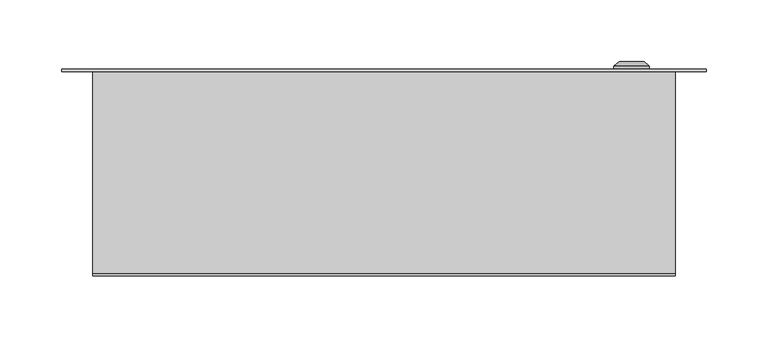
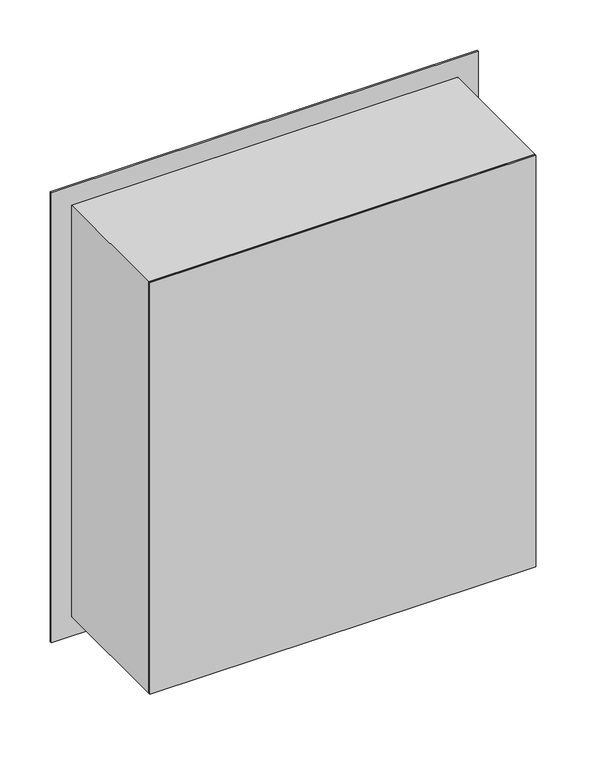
"""IFC4 building model written with IfcOpenShell, lengths in millimetres: proxy geometry, ЩУРВ-3_24 : ЩУРВ-3/24."""

from ifc_helpers import new_model, si_unit, point, frame, frame_2d, origin, place, context, project, spatial, polyline, circle_curve, trimmed, segment, composite_curve, outline, extrude, source, transform, mapped, element, save
from ifc_brep_helpers import plane_surface, cylinder_surface, revolved_surface, advanced_brep


def electrical_equipment_27e2d6df(model_context):
    return source(origin(), model_context, "Body", "SolidModel", [
        extrude(outline(composite_curve([segment(trimmed(circle_curve(frame_2d((448.0, 13.0)), 10.0), [point((458.0, 13.0))], [point((448.0, 3.0))], False, "CARTESIAN"), True, "CONTINUOUS"), segment(polyline([(448.0, 3.0), (393.0, 3.0)]), True, "CONTINUOUS"), segment(trimmed(circle_curve(frame_2d((393.0, 13.0)), 10.0), [point((393.0, 3.0))], [point((383.0, 13.0))], False, "CARTESIAN"), True, "CONTINUOUS"), segment(polyline([(383.0, 13.0), (383.0, 93.0)]), True, "CONTINUOUS"), segment(trimmed(circle_curve(frame_2d((393.0, 93.0)), 10.0), [point((383.0, 93.0))], [point((393.0, 103.0))], False, "CARTESIAN"), True, "CONTINUOUS"), segment(polyline([(393.0, 103.0), (448.0, 103.0)]), True, "CONTINUOUS"), segment(trimmed(circle_curve(frame_2d((448.0, 93.0)), 10.0), [point((448.0, 103.0))], [point((458.0, 93.0))], False, "CARTESIAN"), True, "CONTINUOUS"), segment(polyline([(458.0, 93.0), (458.0, 13.0)]), True, "CONTINUOUS")], self_intersect=False)), frame((0.0, -3.0, 0.0), z_axis=(0.0, 1.0, 0.0), x_axis=(0.0, 0.0, 1.0)), (0.0, 0.0, 1.0), 5.0),
        extrude(outline(polyline([(580.0, -260.0), (0.0, -260.0), (0.0, 260.0), (580.0, 260.0), (580.0, -260.0)]), holes=[polyline([(555.0, -235.0), (555.0, 235.0), (25.0, 235.0), (25.0, -235.0), (555.0, -235.0)])]), frame((0.0, 0.0, 0.0), z_axis=(0.0, 1.0, 0.0), x_axis=(0.0, 0.0, 1.0)), (0.0, 0.0, 1.0), 2.0),
        extrude(outline(polyline([(553.0, -233.0), (27.0, -233.0), (27.0, 232.9966095), (553.0, 232.9966095), (553.0, -233.0)]), holes=[composite_curve([segment(polyline([(458.0, 13.0), (458.0, 93.0)]), True, "CONTINUOUS"), segment(trimmed(circle_curve(frame_2d((448.0, 93.0)), 10.0), [point((458.0, 93.0))], [point((448.0, 103.0))], True, "CARTESIAN"), True, "CONTINUOUS"), segment(polyline([(448.0, 103.0), (393.0, 103.0)]), True, "CONTINUOUS"), segment(trimmed(circle_curve(frame_2d((393.0, 93.0)), 10.0), [point((393.0, 103.0))], [point((383.0, 93.0))], True, "CARTESIAN"), True, "CONTINUOUS"), segment(polyline([(383.0, 93.0), (383.0, 13.0)]), True, "CONTINUOUS"), segment(trimmed(circle_curve(frame_2d((393.0, 13.0)), 10.0), [point((383.0, 13.0))], [point((393.0, 3.0))], True, "CARTESIAN"), True, "CONTINUOUS"), segment(polyline([(393.0, 3.0), (448.0, 3.0)]), True, "CONTINUOUS"), segment(trimmed(circle_curve(frame_2d((448.0, 13.0)), 10.0), [point((448.0, 3.0))], [point((458.0, 13.0))], True, "CARTESIAN"), True, "CONTINUOUS")], self_intersect=False)]), frame((0.0, 0.0, 0.0), z_axis=(0.0, 1.0, 0.0), x_axis=(0.0, 0.0, 1.0)), (0.0, 0.0, 1.0), 2.0),
        extrude(outline(polyline([(555.0, -235.0), (25.0, -235.0), (25.0, 234.9966095), (555.0, 234.9966095), (555.0, -235.0)]), holes=[polyline([(554.0, -234.0), (554.0, 233.9966095), (26.0, 233.9966095), (26.0, -234.0), (554.0, -234.0)])]), frame((0.0, -163.0, 0.0), z_axis=(0.0, 1.0, 0.0), x_axis=(0.0, 0.0, 1.0)), (0.0, 0.0, 1.0), 163.0),
        extrude(outline(polyline([(235.0, -165.0), (-235.0, -165.0), (-235.0, -163.0), (235.0, -163.0), (235.0, -165.0)])), frame((0.0, 0.0, 25.0), z_axis=(0.0, 0.0, 1.0), x_axis=(1.0, 0.0, 0.0)), (0.0, 0.0, 1.0), 530.0),
        advanced_brep(
        [(185.669873, 2.0, 290.0), (214.330127, 2.0, 290.0), (200.0, 2.0, 290.0), (185.669873, 4.366592, 290.0), (214.330127, 4.366592, 290.0), (190.0, 8.0, 290.0), (210.0, 8.0, 290.0), (198.1080471, 8.0, 290.0), (201.8919529, 8.0, 290.0), (198.1080471, 6.9822294, 290.0), (201.8919529, 6.9822294, 290.0), (200.0, 6.9822294, 290.0)],
        [
            (0, 1, circle_curve(frame((200.0, 2.0, 290.0), z_axis=(0.0, -1.0, 0.0), x_axis=(1.0, 0.0, 0.0)), 14.330127)),
            (1, 2),
            (2, 0),
            (1, 0, circle_curve(frame((200.0, 2.0, 290.0), z_axis=(0.0, -1.0, 0.0), x_axis=(1.0, 0.0, 0.0)), 14.330127)),
            (3, 4, circle_curve(frame((200.0, 4.366592, 290.0), z_axis=(0.0, -1.0, 0.0), x_axis=(1.0, 0.0, 0.0)), 14.330127)),
            (4, 1),
            (0, 3),
            (4, 3, circle_curve(frame((200.0, 4.366592, 290.0), z_axis=(0.0, -1.0, 0.0), x_axis=(1.0, 0.0, 0.0)), 14.330127)),
            (5, 6, circle_curve(frame((200.0, 8.0, 290.0), z_axis=(0.0, -1.0, 0.0), x_axis=(1.0, 0.0, 0.0)), 10.0)),
            (6, 4),
            (3, 5),
            (6, 5, circle_curve(frame((200.0, 8.0, 290.0), z_axis=(0.0, -1.0, 0.0), x_axis=(1.0, 0.0, 0.0)), 10.0)),
            (7, 8, circle_curve(frame((200.0, 8.0, 290.0), z_axis=(0.0, -1.0, 0.0), x_axis=(1.0, 0.0, 0.0)), 1.8919529)),
            (8, 6),
            (5, 7),
            (8, 7, circle_curve(frame((200.0, 8.0, 290.0), z_axis=(0.0, -1.0, 0.0), x_axis=(1.0, 0.0, 0.0)), 1.8919529)),
            (9, 10, circle_curve(frame((200.0, 6.9822294, 290.0), z_axis=(0.0, -1.0, 0.0), x_axis=(1.0, 0.0, 0.0)), 1.8919529)),
            (10, 8),
            (7, 9),
            (10, 9, circle_curve(frame((200.0, 6.9822294, 290.0), z_axis=(0.0, -1.0, 0.0), x_axis=(1.0, 0.0, 0.0)), 1.8919529)),
            (11, 10),
            (9, 11),
        ],
        [
            plane_surface(frame((200.0, 2.0, 290.0), z_axis=(0.0, -1.0, 0.0), x_axis=(1.0, 0.0, 0.0))),
            cylinder_surface(frame((200.0, 15.1348851, 290.0), z_axis=(0.0, 1.0, 0.0), x_axis=(1.0, 0.0, 0.0)), 14.330127),
            revolved_surface(polyline([(214.330127, 4.366592, 290.0), (210.0, 8.0, 290.0)]), (200.0, 15.1348851, 290.0), (0.0, 1.0, 0.0)),
            plane_surface(frame((200.0, 8.0, 290.0), z_axis=(0.0, 1.0, 0.0), x_axis=(1.0, 0.0, 0.0))),
            revolved_surface(polyline([(201.8919529, 8.0, 290.0), (201.8919529, 6.9822294, 290.0)]), (200.0, 15.1348851, 290.0), (0.0, 1.0, 0.0)),
            plane_surface(frame((200.0, 6.9822294, 290.0), z_axis=(0.0, 1.0, 0.0), x_axis=(1.0, 0.0, 0.0))),
        ],
        [
            (0, [[1, 2, 3]]),
            (0, [[4, -3, -2]]),
            (1, [[5, 6, -1, 7]]),
            (1, [[8, -7, -4, -6]]),
            (2, [[9, 10, -5, 11]]),
            (2, [[12, -11, -8, -10]]),
            (3, [[13, 14, -9, 15]]),
            (3, [[16, -15, -12, -14]]),
            (4, [[17, 18, -13, 19]]),
            (4, [[20, -19, -16, -18]]),
            (5, [[21, -17, 22]]),
            (5, [[-22, -20, -21]]),
        ],
    ),
    ])


if __name__ == "__main__":
    model = new_model("IFC4")
    model_context = context("Model", 3, world=origin())
    ifc_project = project(units=[si_unit("LENGTHUNIT", "METRE", prefix="MILLI")], contexts=[model_context])
    site = spatial("IfcSite", under=ifc_project)
    building = spatial("IfcBuilding", under=site)
    placement = place(None, origin())
    electrical_equipment_shape = electrical_equipment_27e2d6df(model_context)
    element("IfcBuildingElementProxy", 1, Name="ЩУРВ-3_24 : ЩУРВ-3/24", ObjectType="ЩУРВ-3_24 : ЩУРВ-3/24", at=placement, inside=building, context=model_context, shape_type="MappedRepresentation", body=[
        mapped(electrical_equipment_shape, transform((0.0, 0.0, 0.0), x_axis=(1.0, 0.0, 0.0), y_axis=(0.0, 1.0, 0.0), z_axis=(0.0, 0.0, 1.0))),
    ])
    save(model, "model.ifc")
